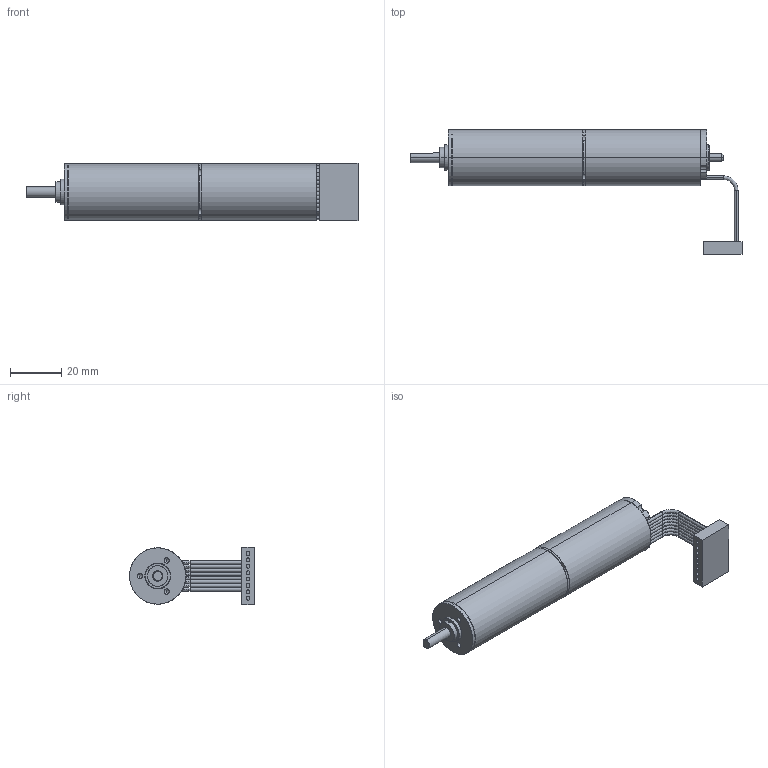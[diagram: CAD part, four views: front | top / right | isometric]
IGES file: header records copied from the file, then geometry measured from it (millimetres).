
Start section: SolidWorks IGES file using analytic representation for surfaces
Global section: file name: \\Uranus\R&D\plans\CATALOGUES\Topstock_Piece_IGES\ECMax22L_+_GP022C 5etages.IGS; native system: SolidWorks 2008; preprocessor: SolidWorks 2008; author: JUL; date: 090326.102709; units: millimetre
Bounding box: 129.7 x 48.8 x 22.4 mm (x, y, z)
Surface area: 12147.2 mm2 (no closed solid volume)
Topology: 0 solids, 0 shells, 206 faces, 2527 edges, 2507 vertices
Faces by surface type: revolution 157, bspline 49
